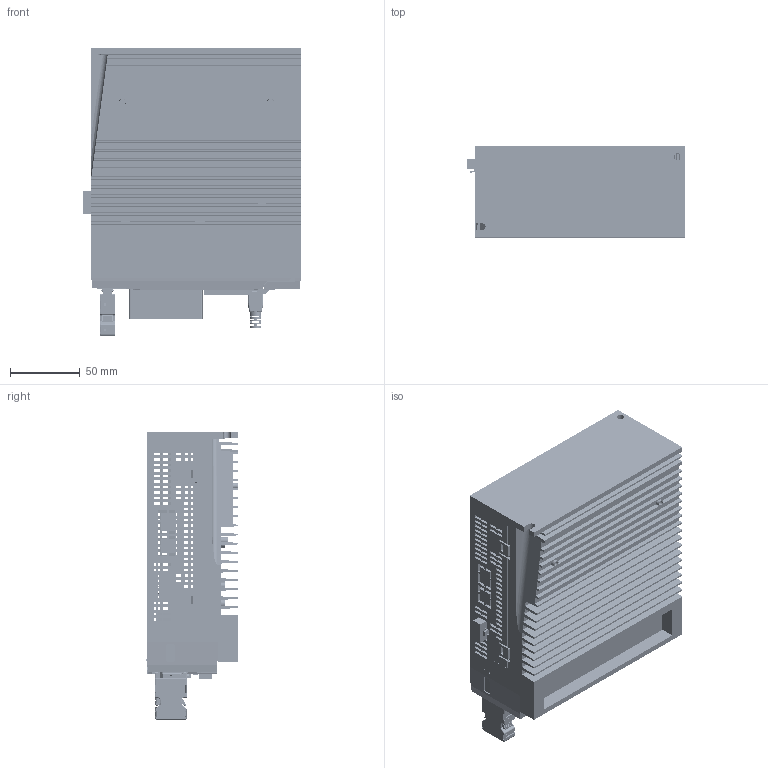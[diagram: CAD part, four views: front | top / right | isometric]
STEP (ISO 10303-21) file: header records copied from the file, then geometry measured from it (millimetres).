
FILE_DESCRIPTION((''),'2;1');
FILE_NAME('M56S-24A5RF','2023-08-15T19:08:01',('ms27526'),(''),'CREO PARAMETRIC BY PTC INC, 2018100','CREO PARAMETRIC BY PTC INC, 2018100','');
FILE_SCHEMA(('CONFIG_CONTROL_DESIGN'));
Products named in the file (1): M56S-24A5RF
Bounding box: 155.36 x 65.2 x 205.43 mm (x, y, z)
Volume: 370836 mm3; surface area: 356421.5 mm2
Topology: 15 solids, 51 shells, 9736 faces, 27923 edges, 18198 vertices
Faces by surface type: plane 6938, cylinder 2445, bspline 143, cone 108, torus 47, sphere 28, extrusion 27
Entity records: 324090 total; most frequent: CARTESIAN_POINT 65869, ORIENTED_EDGE 55123, DIRECTION 50852, EDGE_CURVE 27863, VECTOR 21804, LINE 21777, VERTEX_POINT 18198, AXIS2_PLACEMENT_3D 14524
